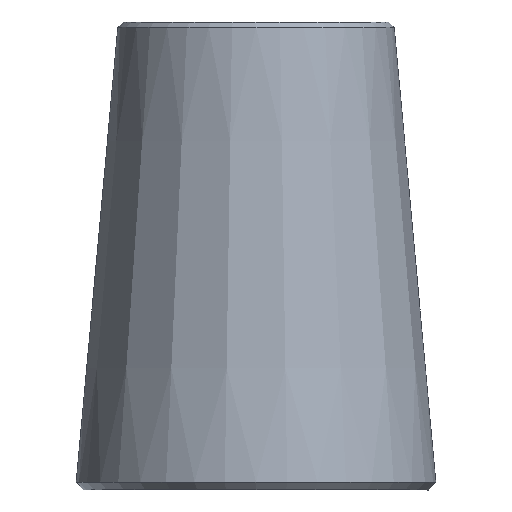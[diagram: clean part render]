
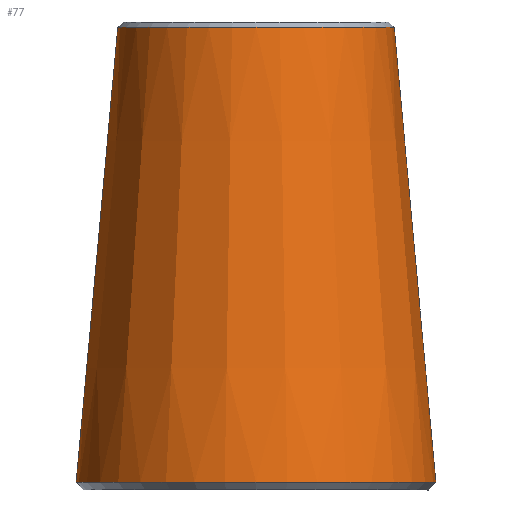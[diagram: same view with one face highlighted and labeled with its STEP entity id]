
A CAD part, left-side view. The second image highlights one B-rep face of the part: STEP entity #77.
In plain terms, the highlighted conical face has half-angle 5.224 degrees and reference radius 59.5 mm.
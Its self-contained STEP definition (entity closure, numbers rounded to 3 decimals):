
#20=FACE_BOUND('',#34,.T.);
#25=FACE_OUTER_BOUND('',#33,.T.);
#33=EDGE_LOOP('',(#63));
#34=EDGE_LOOP('',(#64));
#44=CIRCLE('',#87,67.227);
#45=CIRCLE('',#89,51.682);
#50=VERTEX_POINT('',#130);
#51=VERTEX_POINT('',#133);
#56=EDGE_CURVE('',#50,#50,#44,.T.);
#57=EDGE_CURVE('',#51,#51,#45,.T.);
#63=ORIENTED_EDGE('',*,*,#57,.F.);
#64=ORIENTED_EDGE('',*,*,#56,.F.);
#74=CONICAL_SURFACE('',#88,59.5,5.224);
#77=ADVANCED_FACE('',(#25,#20),#74,.T.);
#87=AXIS2_PLACEMENT_3D('',#131,#104,#105);
#88=AXIS2_PLACEMENT_3D('',#132,#106,#107);
#89=AXIS2_PLACEMENT_3D('',#134,#108,#109);
#104=DIRECTION('center_axis',(0.,0.,
-1.));
#105=DIRECTION('ref_axis',(0.,1.,0.));
#106=DIRECTION('center_axis',(0.,0.,-1.));
#107=DIRECTION('ref_axis',(0.,-1.,0.));
#108=DIRECTION('center_axis',(0.,0.,
1.));
#109=DIRECTION('ref_axis',(0.,1.,0.));
#130=CARTESIAN_POINT('',(0.,-67.227,2.988));
#131=CARTESIAN_POINT('Origin',(0.,0.,2.988));
#132=CARTESIAN_POINT('Origin',(0.,0.,87.5));
#133=CARTESIAN_POINT('',(0.,-51.682,173.008));
#134=CARTESIAN_POINT('Origin',(0.,0.,
173.008));
